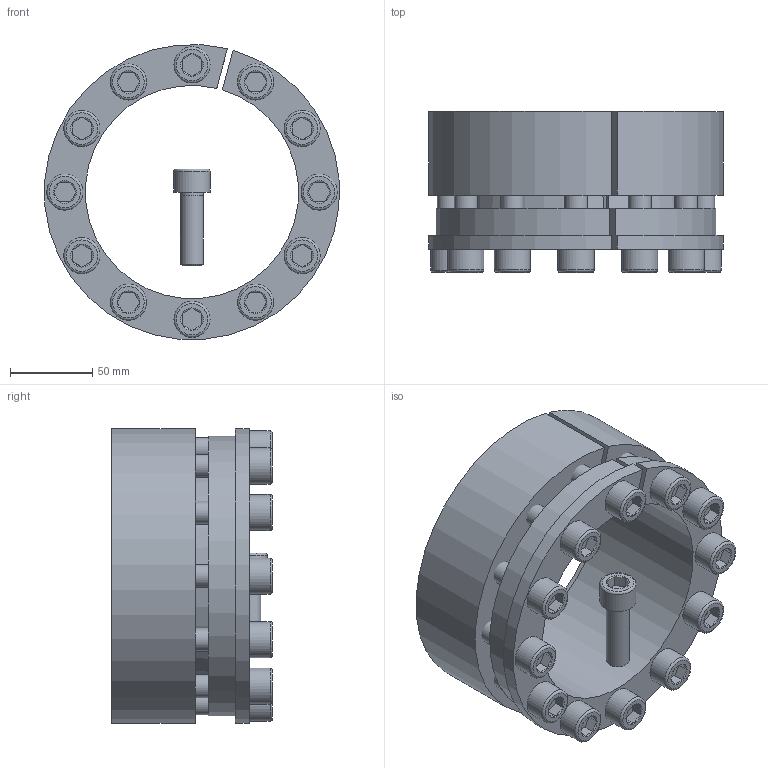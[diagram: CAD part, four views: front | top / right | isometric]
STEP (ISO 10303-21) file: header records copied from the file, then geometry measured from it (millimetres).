
FILE_DESCRIPTION( ( 'Unknown' ), '1' );
FILE_NAME( 'C:/Dokumente und Einstellungen/Sven/Desktop/homepage/cad - homepage/KBS70/KBS 70 - 130 x 180.stp', 'Unknown', ( 'Unknown' ), ( 'Unknown' ), 'XStep 1.0', 'Unknown', ' ' );
FILE_SCHEMA( ( 'automotive_design' ) );
Length unit declared in the file: millimetre
Products named in the file (3): Assem1; KBS 70 - 130 x 180; ISO EN DIN 4762 M14x45
Bounding box: 179.47 x 98 x 179.46 mm (x, y, z)
Volume: 1732742.6 mm3; surface area: 364305.3 mm2
Topology: 15 solids, 15 shells, 401 faces, 819 edges, 500 vertices
Faces by surface type: plane 172, cylinder 108, cone 95, torus 26
Full cylindrical faces by diameter (mm): 12 x61, 14 x26, 22 x13
Entity records: 2254 total; most frequent: CARTESIAN_POINT 361, DIRECTION 340, ORIENTED_EDGE 238, AXIS2_PLACEMENT_3D 154, EDGE_LOOP 146, EDGE_CURVE 119, VERTEX_POINT 95, FACE_OUTER_BOUND 93
